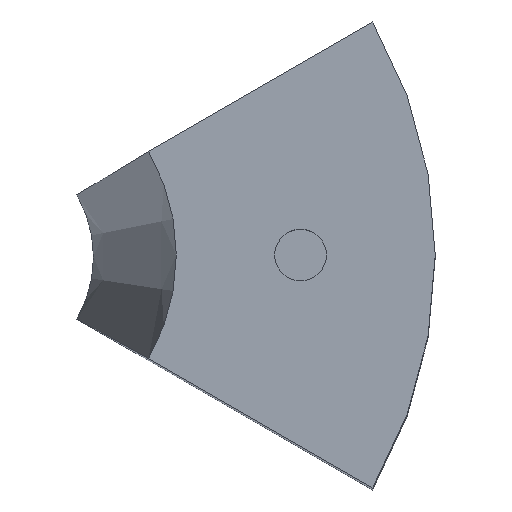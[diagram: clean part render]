
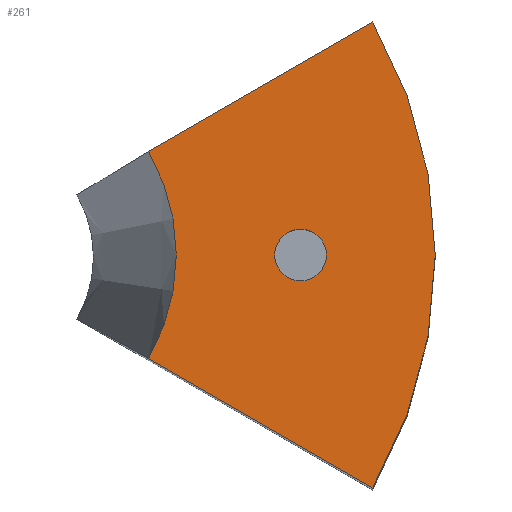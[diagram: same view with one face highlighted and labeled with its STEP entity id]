
A CAD part, top view. The second image highlights one B-rep face of the part: STEP entity #261.
In plain terms, the highlighted planar face has unit normal (0, 0, 1).
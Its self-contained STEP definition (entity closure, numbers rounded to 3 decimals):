
#33 = CYLINDRICAL_SURFACE('',#34,45.);
#34 = AXIS2_PLACEMENT_3D('',#35,#36,#37);
#35 = CARTESIAN_POINT('',(0.,0.,0.));
#36 = DIRECTION('',(-0.,-0.,-1.));
#37 = DIRECTION('',(1.,0.,0.));
#58 = VERTEX_POINT('',#59);
#59 = CARTESIAN_POINT('',(38.971,-22.5,110.));
#72 = PLANE('',#73);
#73 = AXIS2_PLACEMENT_3D('',#74,#75,#76);
#74 = CARTESIAN_POINT('',(0.,0.,0.));
#75 = DIRECTION('',(0.5,0.866,-0.));
#76 = DIRECTION('',(0.866,-0.5,0.));
#83 = EDGE_CURVE('',#84,#58,#86,.T.);
#84 = VERTEX_POINT('',#85);
#85 = CARTESIAN_POINT('',(38.971,22.5,110.));
#86 = SURFACE_CURVE('',#87,(#92,#99),.PCURVE_S1.);
#87 = CIRCLE('',#88,45.);
#88 = AXIS2_PLACEMENT_3D('',#89,#90,#91);
#89 = CARTESIAN_POINT('',(0.,0.,110.));
#90 = DIRECTION('',(0.,0.,-1.));
#91 = DIRECTION('',(0.866,0.5,0.));
#92 = PCURVE('',#33,#93);
#93 = DEFINITIONAL_REPRESENTATION('',(#94),#98);
#94 = LINE('',#95,#96);
#95 = CARTESIAN_POINT('',(-6.807,-110.));
#96 = VECTOR('',#97,1.);
#97 = DIRECTION('',(1.,-0.));
#98 = ( GEOMETRIC_REPRESENTATION_CONTEXT(2) 
PARAMETRIC_REPRESENTATION_CONTEXT() REPRESENTATION_CONTEXT('2D SPACE',''
  ) );
#99 = PCURVE('',#100,#105);
#100 = PLANE('',#101);
#101 = AXIS2_PLACEMENT_3D('',#102,#103,#104);
#102 = CARTESIAN_POINT('',(0.,0.,110.));
#103 = DIRECTION('',(0.,0.,1.));
#104 = DIRECTION('',(1.,0.,-0.));
#105 = DEFINITIONAL_REPRESENTATION('',(#106),#114);
#106 = ( BOUNDED_CURVE() B_SPLINE_CURVE(2,(#107,#108,#109,#110,#111,#112
,#113),.UNSPECIFIED.,.T.,.F.) B_SPLINE_CURVE_WITH_KNOTS((1,2,2,2,2,1),(
    -2.094,0.,2.094,4.189,6.283,
8.378),.UNSPECIFIED.) CURVE() GEOMETRIC_REPRESENTATION_ITEM() 
RATIONAL_B_SPLINE_CURVE((1.,0.5,1.,0.5,1.,0.5,1.)) REPRESENTATION_ITEM(
  '') );
#107 = CARTESIAN_POINT('',(38.971,22.5));
#108 = CARTESIAN_POINT('',(77.942,-45.));
#109 = CARTESIAN_POINT('',(0.,-45.));
#110 = CARTESIAN_POINT('',(-77.942,-45.));
#111 = CARTESIAN_POINT('',(-38.971,22.5));
#112 = CARTESIAN_POINT('',(0.,90.));
#113 = CARTESIAN_POINT('',(38.971,22.5));
#114 = ( GEOMETRIC_REPRESENTATION_CONTEXT(2) 
PARAMETRIC_REPRESENTATION_CONTEXT() REPRESENTATION_CONTEXT('2D SPACE',''
  ) );
#129 = PLANE('',#130);
#130 = AXIS2_PLACEMENT_3D('',#131,#132,#133);
#131 = CARTESIAN_POINT('',(51.962,30.,0.));
#132 = DIRECTION('',(0.5,-0.866,0.));
#133 = DIRECTION('',(-0.866,-0.5,0.));
#184 = CONICAL_SURFACE('',#185,12.,0.073);
#185 = AXIS2_PLACEMENT_3D('',#186,#187,#188);
#186 = CARTESIAN_POINT('',(0.,0.,0.));
#187 = DIRECTION('',(0.,0.,1.));
#188 = DIRECTION('',(1.,0.,-0.));
#222 = VERTEX_POINT('',#223);
#223 = CARTESIAN_POINT('',(17.321,-10.,110.));
#242 = EDGE_CURVE('',#58,#222,#243,.T.);
#243 = SURFACE_CURVE('',#244,(#248,#254),.PCURVE_S1.);
#244 = LINE('',#245,#246);
#245 = CARTESIAN_POINT('',(0.,0.,110.)
  );
#246 = VECTOR('',#247,1.);
#247 = DIRECTION('',(-0.866,0.5,0.));
#248 = PCURVE('',#72,#249);
#249 = DEFINITIONAL_REPRESENTATION('',(#250),#253);
#250 = B_SPLINE_CURVE_WITH_KNOTS('',1,(#251,#252),.UNSPECIFIED.,.F.,.F.,
  (2,2),(-51.962,0.),.PIECEWISE_BEZIER_KNOTS.);
#251 = CARTESIAN_POINT('',(51.962,-110.));
#252 = CARTESIAN_POINT('',(0.,-110.));
#253 = ( GEOMETRIC_REPRESENTATION_CONTEXT(2) 
PARAMETRIC_REPRESENTATION_CONTEXT() REPRESENTATION_CONTEXT('2D SPACE',''
  ) );
#254 = PCURVE('',#100,#255);
#255 = DEFINITIONAL_REPRESENTATION('',(#256),#259);
#256 = B_SPLINE_CURVE_WITH_KNOTS('',1,(#257,#258),.UNSPECIFIED.,.F.,.F.,
  (2,2),(-51.962,0.),.PIECEWISE_BEZIER_KNOTS.);
#257 = CARTESIAN_POINT('',(45.,-25.981));
#258 = CARTESIAN_POINT('',(0.,0.));
#259 = ( GEOMETRIC_REPRESENTATION_CONTEXT(2) 
PARAMETRIC_REPRESENTATION_CONTEXT() REPRESENTATION_CONTEXT('2D SPACE',''
  ) );
#261 = ADVANCED_FACE('',(#262,#313),#100,.T.);
#262 = FACE_BOUND('',#263,.T.);
#263 = EDGE_LOOP('',(#264,#265,#266,#287));
#264 = ORIENTED_EDGE('',*,*,#242,.F.);
#265 = ORIENTED_EDGE('',*,*,#83,.F.);
#266 = ORIENTED_EDGE('',*,*,#267,.F.);
#267 = EDGE_CURVE('',#268,#84,#270,.T.);
#268 = VERTEX_POINT('',#269);
#269 = CARTESIAN_POINT('',(17.321,10.,110.));
#270 = SURFACE_CURVE('',#271,(#275,#281),.PCURVE_S1.);
#271 = LINE('',#272,#273);
#272 = CARTESIAN_POINT('',(25.981,15.,110.));
#273 = VECTOR('',#274,1.);
#274 = DIRECTION('',(0.866,0.5,-0.));
#275 = PCURVE('',#100,#276);
#276 = DEFINITIONAL_REPRESENTATION('',(#277),#280);
#277 = B_SPLINE_CURVE_WITH_KNOTS('',1,(#278,#279),.UNSPECIFIED.,.F.,.F.,
  (2,2),(-30.,21.962),.PIECEWISE_BEZIER_KNOTS.);
#278 = CARTESIAN_POINT('',(0.,0.));
#279 = CARTESIAN_POINT('',(45.,25.981));
#280 = ( GEOMETRIC_REPRESENTATION_CONTEXT(2) 
PARAMETRIC_REPRESENTATION_CONTEXT() REPRESENTATION_CONTEXT('2D SPACE',''
  ) );
#281 = PCURVE('',#129,#282);
#282 = DEFINITIONAL_REPRESENTATION('',(#283),#286);
#283 = B_SPLINE_CURVE_WITH_KNOTS('',1,(#284,#285),.UNSPECIFIED.,.F.,.F.,
  (2,2),(-30.,21.962),.PIECEWISE_BEZIER_KNOTS.);
#284 = CARTESIAN_POINT('',(60.,-110.));
#285 = CARTESIAN_POINT('',(8.038,-110.));
#286 = ( GEOMETRIC_REPRESENTATION_CONTEXT(2) 
PARAMETRIC_REPRESENTATION_CONTEXT() REPRESENTATION_CONTEXT('2D SPACE',''
  ) );
#287 = ORIENTED_EDGE('',*,*,#288,.T.);
#288 = EDGE_CURVE('',#268,#222,#289,.T.);
#289 = SURFACE_CURVE('',#290,(#295,#306),.PCURVE_S1.);
#290 = CIRCLE('',#291,20.);
#291 = AXIS2_PLACEMENT_3D('',#292,#293,#294);
#292 = CARTESIAN_POINT('',(0.,0.,110.));
#293 = DIRECTION('',(0.,0.,-1.));
#294 = DIRECTION('',(0.866,0.5,0.));
#295 = PCURVE('',#100,#296);
#296 = DEFINITIONAL_REPRESENTATION('',(#297),#305);
#297 = ( BOUNDED_CURVE() B_SPLINE_CURVE(2,(#298,#299,#300,#301,#302,#303
,#304),.UNSPECIFIED.,.T.,.F.) B_SPLINE_CURVE_WITH_KNOTS((1,2,2,2,2,1),(
    -2.094,0.,2.094,4.189,6.283,
8.378),.UNSPECIFIED.) CURVE() GEOMETRIC_REPRESENTATION_ITEM() 
RATIONAL_B_SPLINE_CURVE((1.,0.5,1.,0.5,1.,0.5,1.)) REPRESENTATION_ITEM(
  '') );
#298 = CARTESIAN_POINT('',(17.321,10.));
#299 = CARTESIAN_POINT('',(34.641,-20.));
#300 = CARTESIAN_POINT('',(0.,-20.));
#301 = CARTESIAN_POINT('',(-34.641,-20.));
#302 = CARTESIAN_POINT('',(-17.321,10.));
#303 = CARTESIAN_POINT('',(0.,40.));
#304 = CARTESIAN_POINT('',(17.321,10.));
#305 = ( GEOMETRIC_REPRESENTATION_CONTEXT(2) 
PARAMETRIC_REPRESENTATION_CONTEXT() REPRESENTATION_CONTEXT('2D SPACE',''
  ) );
#306 = PCURVE('',#184,#307);
#307 = DEFINITIONAL_REPRESENTATION('',(#308),#312);
#308 = LINE('',#309,#310);
#309 = CARTESIAN_POINT('',(6.807,110.));
#310 = VECTOR('',#311,1.);
#311 = DIRECTION('',(-1.,-0.));
#312 = ( GEOMETRIC_REPRESENTATION_CONTEXT(2) 
PARAMETRIC_REPRESENTATION_CONTEXT() REPRESENTATION_CONTEXT('2D SPACE',''
  ) );
#313 = FACE_BOUND('',#314,.T.);
#314 = EDGE_LOOP('',(#315));
#315 = ORIENTED_EDGE('',*,*,#316,.T.);
#316 = EDGE_CURVE('',#317,#317,#319,.T.);
#317 = VERTEX_POINT('',#318);
#318 = CARTESIAN_POINT('',(34.5,0.,110.));
#319 = SURFACE_CURVE('',#320,(#325,#336),.PCURVE_S1.);
#320 = CIRCLE('',#321,2.5);
#321 = AXIS2_PLACEMENT_3D('',#322,#323,#324);
#322 = CARTESIAN_POINT('',(32.,0.,110.));
#323 = DIRECTION('',(0.,0.,-1.));
#324 = DIRECTION('',(1.,0.,0.));
#325 = PCURVE('',#100,#326);
#326 = DEFINITIONAL_REPRESENTATION('',(#327),#335);
#327 = ( BOUNDED_CURVE() B_SPLINE_CURVE(2,(#328,#329,#330,#331,#332,#333
,#334),.UNSPECIFIED.,.T.,.F.) B_SPLINE_CURVE_WITH_KNOTS((1,2,2,2,2,1),(
    -2.094,0.,2.094,4.189,6.283,
8.378),.UNSPECIFIED.) CURVE() GEOMETRIC_REPRESENTATION_ITEM() 
RATIONAL_B_SPLINE_CURVE((1.,0.5,1.,0.5,1.,0.5,1.)) REPRESENTATION_ITEM(
  '') );
#328 = CARTESIAN_POINT('',(34.5,0.));
#329 = CARTESIAN_POINT('',(34.5,-4.33));
#330 = CARTESIAN_POINT('',(30.75,-2.165));
#331 = CARTESIAN_POINT('',(27.,0.));
#332 = CARTESIAN_POINT('',(30.75,2.165));
#333 = CARTESIAN_POINT('',(34.5,4.33));
#334 = CARTESIAN_POINT('',(34.5,0.));
#335 = ( GEOMETRIC_REPRESENTATION_CONTEXT(2) 
PARAMETRIC_REPRESENTATION_CONTEXT() REPRESENTATION_CONTEXT('2D SPACE',''
  ) );
#336 = PCURVE('',#337,#342);
#337 = CYLINDRICAL_SURFACE('',#338,2.5);
#338 = AXIS2_PLACEMENT_3D('',#339,#340,#341);
#339 = CARTESIAN_POINT('',(32.,0.,92.));
#340 = DIRECTION('',(-0.,-0.,-1.));
#341 = DIRECTION('',(1.,0.,0.));
#342 = DEFINITIONAL_REPRESENTATION('',(#343),#347);
#343 = LINE('',#344,#345);
#344 = CARTESIAN_POINT('',(-6.283,-18.));
#345 = VECTOR('',#346,1.);
#346 = DIRECTION('',(1.,-0.));
#347 = ( GEOMETRIC_REPRESENTATION_CONTEXT(2) 
PARAMETRIC_REPRESENTATION_CONTEXT() REPRESENTATION_CONTEXT('2D SPACE',''
  ) );
